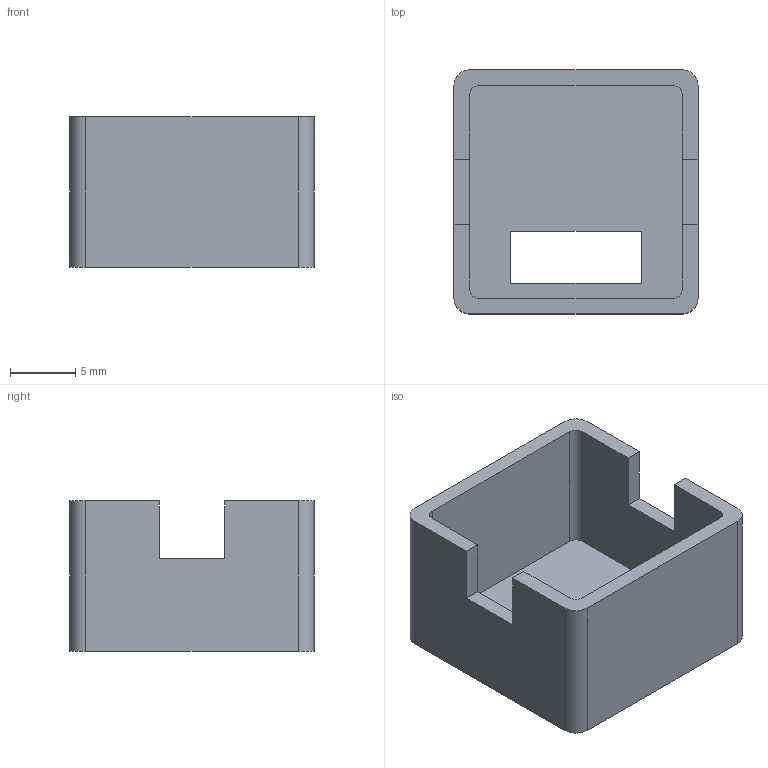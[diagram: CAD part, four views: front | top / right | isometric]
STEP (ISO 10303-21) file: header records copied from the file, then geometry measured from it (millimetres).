
FILE_DESCRIPTION(('Open CASCADE Model'),'2;1');
FILE_NAME('Open CASCADE Shape Model','2026-09-06T14:27:59',('Author'),( 'Open CASCADE'),'Open CASCADE STEP processor 7.9','Open CASCADE 7.9' ,'Unknown');
FILE_SCHEMA(('AUTOMOTIVE_DESIGN { 1 0 10303 214 1 1 1 1 }'));
Length unit declared in the file: millimetre
Products named in the file (1): Open CASCADE STEP translator 7.9 7
Bounding box: 18.7 x 18.7 x 11.5 mm (x, y, z)
Volume: 1174.1 mm3; surface area: 2079.3 mm2
Topology: 1 solids, 1 shells, 30 faces, 84 edges, 56 vertices
Faces by surface type: plane 22, cylinder 8
Entity records: 2028 total; most frequent: CARTESIAN_POINT 435, DIRECTION 264, ORIENTED_EDGE 168, PCURVE 168, DEFINITIONAL_REPRESENTATION 168, LINE 160, VECTOR 160, EDGE_CURVE 84
